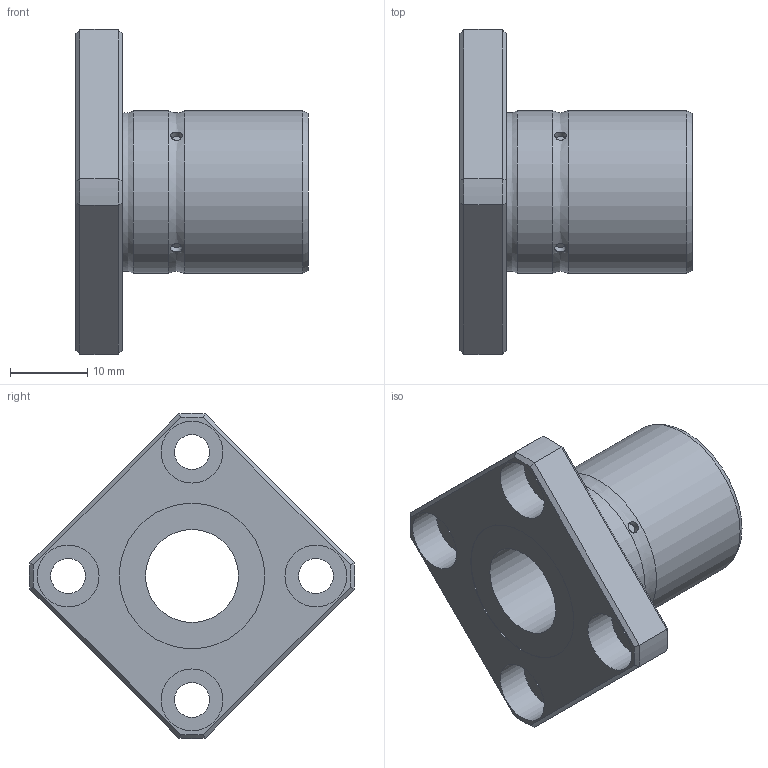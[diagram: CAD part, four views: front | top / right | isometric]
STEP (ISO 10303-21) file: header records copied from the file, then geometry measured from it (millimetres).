
FILE_DESCRIPTION((''),'2;1');
FILE_NAME('D:\製品 (図面)\カタログ用3D\リニアベアリング関連\STEP形式\LFK-OH\LFK12-OH.stp','2010-06-04T08:55:25',('Tsuchiya'),(''),'Autodesk Inventor 10','Autodesk Inventor 10','');
FILE_SCHEMA(('AUTOMOTIVE_DESIGN { 1 0 10303 214 1 1 1 1 }'));
Length unit declared in the file: millimetre
Products named in the file (1): LFK12-OH
Bounding box: 30 x 41.98 x 41.98 mm (x, y, z)
Volume: 9900.5 mm3; surface area: 5601.7 mm2
Topology: 1 solids, 1 shells, 57 faces, 116 edges, 72 vertices
Faces by surface type: cylinder 21, plane 21, cone 8, bspline 6, torus 1
Full cylindrical faces by diameter (mm): 4.5 x4, 8 x4, 12 x1, 18.8 x2, 21 x2
Entity records: 1919 total; most frequent: CARTESIAN_POINT 816, DIRECTION 216, ORIENTED_EDGE 184, EDGE_LOOP 98, AXIS2_PLACEMENT_3D 96, EDGE_CURVE 92, VERTEX_POINT 68, FACE_OUTER_BOUND 57
